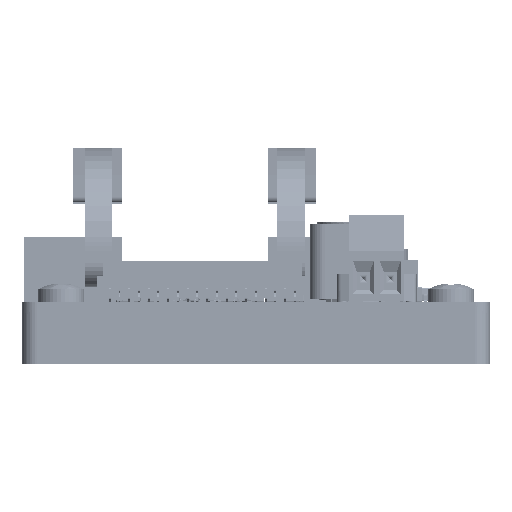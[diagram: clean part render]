
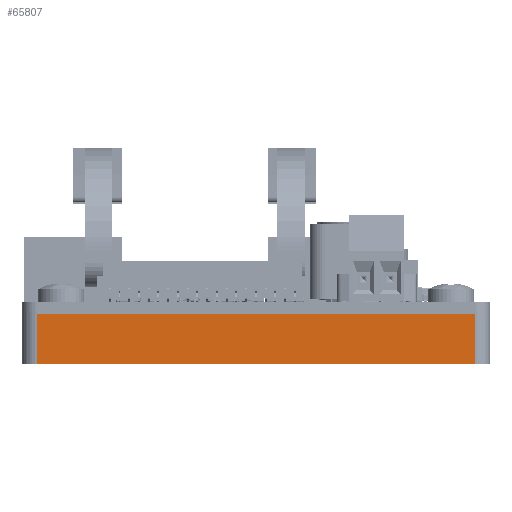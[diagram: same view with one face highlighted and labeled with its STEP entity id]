
A CAD part, left-side view. The second image highlights one B-rep face of the part: STEP entity #65807.
In plain terms, the highlighted planar face has unit normal (-1, 0, 0).
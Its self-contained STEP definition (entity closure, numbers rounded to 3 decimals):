
#15421 = VERTEX_POINT ( 'NONE', #16373 ) ;
#16373 = CARTESIAN_POINT ( 'NONE',  ( -50.8, 0., 28.5 ) ) ;
#24042 = VECTOR ( 'NONE', #107442, 1000. ) ;
#40936 = DIRECTION ( 'NONE',  ( -1., 0., 0. ) ) ;
#43264 = EDGE_CURVE ( 'NONE', #15421, #81247, #107521, .T. ) ;
#45611 = EDGE_CURVE ( 'NONE', #112927, #79167, #124781, .T. ) ;
#60746 = FACE_OUTER_BOUND ( 'NONE', #140845, .T. ) ;
#64671 = AXIS2_PLACEMENT_3D ( 'NONE', #77817, #40936, #127614 ) ;
#65292 = CARTESIAN_POINT ( 'NONE',  ( -50.8, 0., -28.5 ) ) ;
#65807 = ADVANCED_FACE ( 'NONE', ( #60746 ), #115168, .T. ) ;
#69155 = VECTOR ( 'NONE', #132190, 1000. ) ;
#70016 = ORIENTED_EDGE ( 'NONE', *, *, #45611, .T. ) ;
#74822 = EDGE_CURVE ( 'NONE', #15421, #79167, #127222, .T. ) ;
#77735 = DIRECTION ( 'NONE',  ( 0., 0., -1. ) ) ;
#77817 = CARTESIAN_POINT ( 'NONE',  ( -50.8, -6.5, -28.5 ) ) ;
#78010 = CARTESIAN_POINT ( 'NONE',  ( -50.8, -6.5, 28.5 ) ) ;
#79167 = VERTEX_POINT ( 'NONE', #78010 ) ;
#81247 = VERTEX_POINT ( 'NONE', #158041 ) ;
#82942 = CARTESIAN_POINT ( 'NONE',  ( -50.8, -6.5, 28.5 ) ) ;
#89089 = CARTESIAN_POINT ( 'NONE',  ( -50.8, -6.5, -28.5 ) ) ;
#89900 = LINE ( 'NONE', #94977, #24042 ) ;
#92643 = CARTESIAN_POINT ( 'NONE',  ( -50.8, -6.5, 28.5 ) ) ;
#94977 = CARTESIAN_POINT ( 'NONE',  ( -50.8, -6.5, -28.5 ) ) ;
#107442 = DIRECTION ( 'NONE',  ( 0., -1., 0. ) ) ;
#107521 = LINE ( 'NONE', #65292, #128776 ) ;
#112927 = VERTEX_POINT ( 'NONE', #89089 ) ;
#115168 = PLANE ( 'NONE',  #64671 ) ;
#124781 = LINE ( 'NONE', #92643, #153835 ) ;
#127222 = LINE ( 'NONE', #82942, #69155 ) ;
#127614 = DIRECTION ( 'NONE',  ( 0., 0., 1. ) ) ;
#128776 = VECTOR ( 'NONE', #77735, 1000. ) ;
#132190 = DIRECTION ( 'NONE',  ( 0., -1., 0. ) ) ;
#135699 = ORIENTED_EDGE ( 'NONE', *, *, #74822, .F. ) ;
#136375 = ORIENTED_EDGE ( 'NONE', *, *, #43264, .T. ) ;
#140845 = EDGE_LOOP ( 'NONE', ( #70016, #135699, #136375, #144702 ) ) ;
#144702 = ORIENTED_EDGE ( 'NONE', *, *, #147638, .T. ) ;
#147638 = EDGE_CURVE ( 'NONE', #81247, #112927, #89900, .T. ) ;
#153835 = VECTOR ( 'NONE', #154415, 1000. ) ;
#154415 = DIRECTION ( 'NONE',  ( 0., 0., 1. ) ) ;
#158041 = CARTESIAN_POINT ( 'NONE',  ( -50.8, 0., -28.5 ) ) ;
